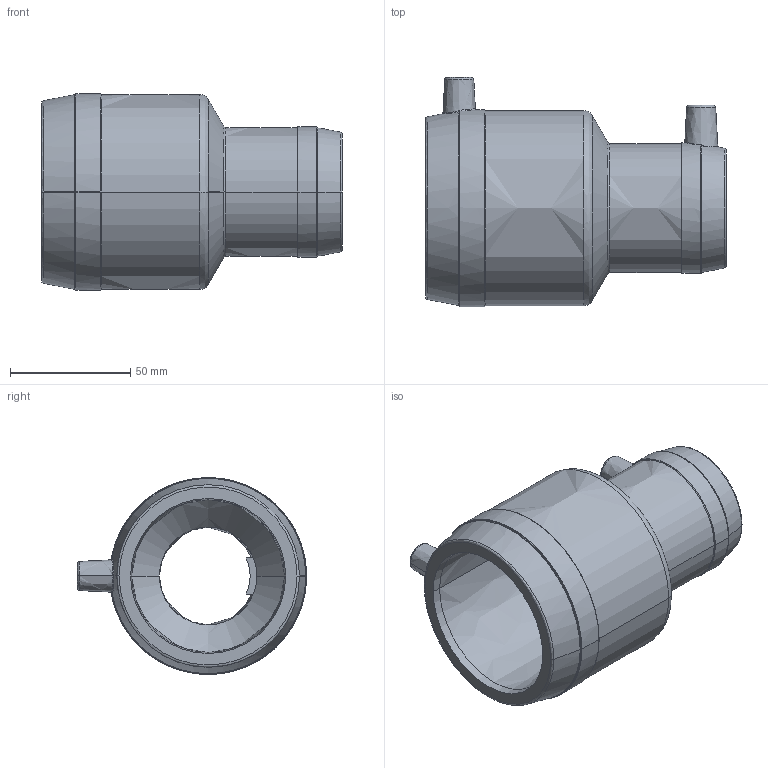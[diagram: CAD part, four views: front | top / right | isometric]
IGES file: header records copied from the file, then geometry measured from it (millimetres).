
Start section:  PTC IGES file: mr_d063-040_01.igs
Global section: file name: mr_d063-040_01.igs; native system: Pro/ENGINEER by Parametric Technology Corporation; preprocessor: 2011490; author: mtunjic; organization: Unknown; date: 20130816.150822; units: millimetre
Bounding box: 125 x 95.2 x 81.8 mm (x, y, z)
Surface area: 53587.3 mm2 (no closed solid volume)
Topology: 0 solids, 0 shells, 202 faces, 994 edges, 994 vertices
Faces by surface type: bspline 202
